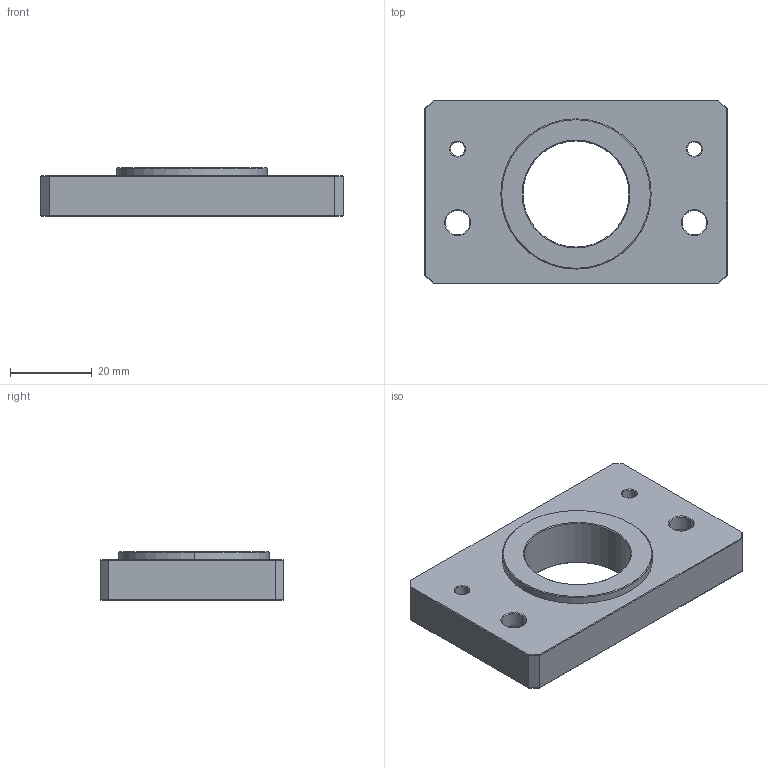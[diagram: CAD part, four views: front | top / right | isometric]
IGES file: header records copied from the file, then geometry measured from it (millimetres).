
Start section:  PTC IGES file: 46MI.igs
Global section: file name: 46MI.igs; native system: Pro/ENGINEER by Parametric Technology Corporation; preprocessor: 2009440; author: Owner; organization: Unknown; date: 20170523.140950; units: millimetre
Bounding box: 74 x 45 x 12 mm (x, y, z)
Surface area: 9694.3 mm2 (no closed solid volume)
Topology: 0 solids, 0 shells, 81 faces, 352 edges, 352 vertices
Faces by surface type: revolution 50, bspline 31
